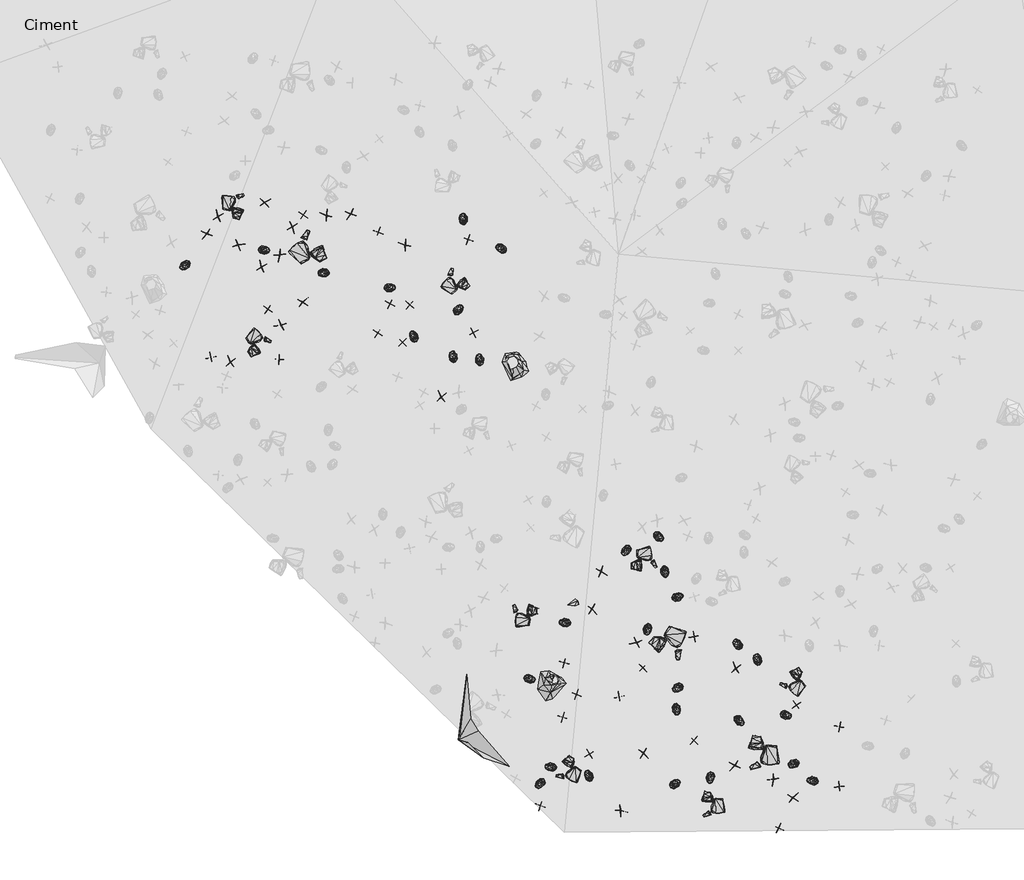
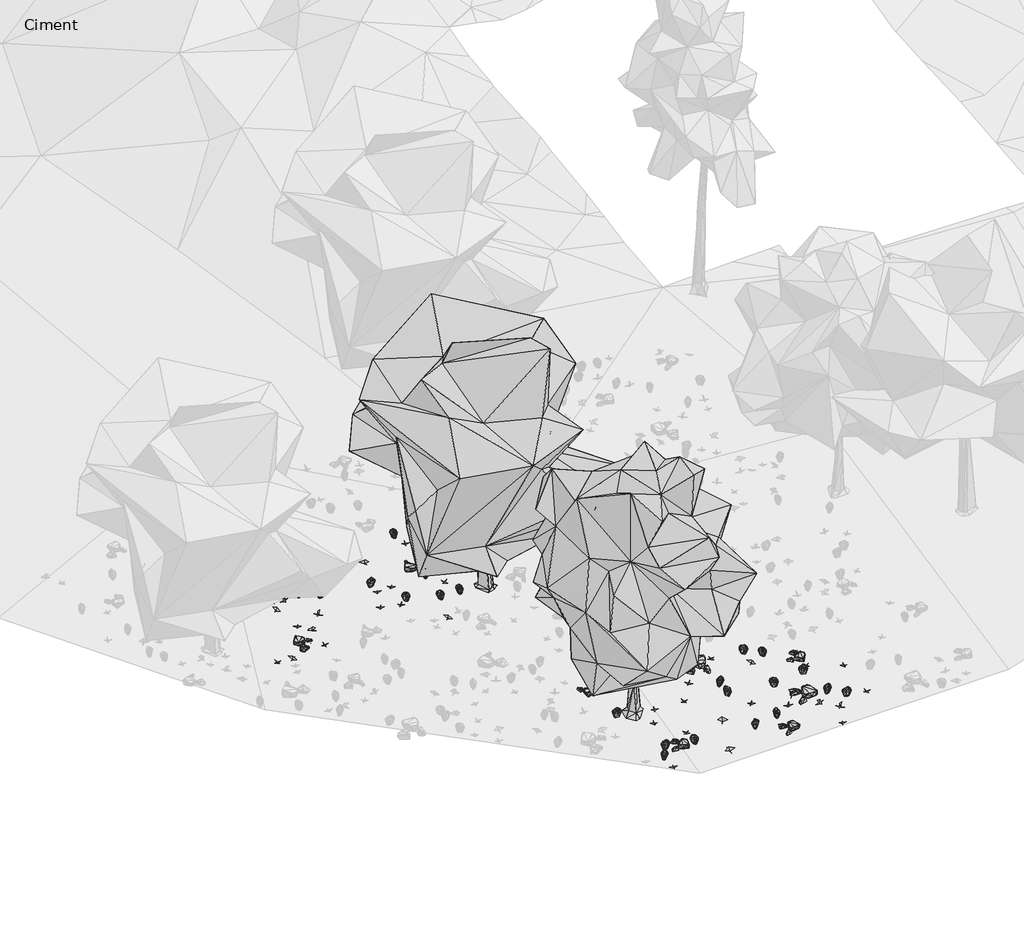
# One storey, part 2 of 30: 90 geographic elements.
"""IFC4 building model written with IfcOpenShell, lengths in millimetres."""

from ifc_helpers import new_model, si_unit, origin, place, context, project, spatial, transform, mapped, element, save
from components import enscape_assetdefinition_bush_025_fern_enscape_5718bf32, enscape_assetdefinition_bush_054_plant_09_version_2_enscape_7b546a12, enscape_assetdefinition_bush_062_plant_09_version_3_enscape_ccf8c8eb, enscape_assetdefinition_deciduous_tree_024_elm_enscape_8f9d8ef3, enscape_assetdefinition_deciduous_tree_029_elm_enscape_e4c49baf, enscape_assetdefinition_stone_013_group_enscape_516da325, enscape_assetdefinition_stone_013_group_enscape_db9b3e91

model = new_model("IFC4")

# Units and contexts
model_context = context("Model", 3, world=origin())
ifc_project = project(units=[si_unit("LENGTHUNIT", "METRE", prefix="MILLI")], contexts=[model_context])

# Site, building, storey
site = spatial("IfcSite", under=ifc_project)
building = spatial("IfcBuilding", under=site)
storey = spatial("IfcBuildingStorey", under=building, Name="Ciment", Elevation=-1500.0)

# Geographic elements
placement = place(None, origin())
enscape_assetdefinition_bush_025_fern_enscape_shape = enscape_assetdefinition_bush_025_fern_enscape_5718bf32(model_context)
element("IfcGeographicElement", 1, ObjectType="Enscape AssetDefinition - Bush 025 Fern : Enscape AssetDefinition - Bush 025 Fern", at=placement, inside=storey, context=model_context, shape_type="MappedRepresentation", body=[
    mapped(enscape_assetdefinition_bush_025_fern_enscape_shape, transform((-17254.2572021, -16587.2364044, -2199.5210648), x_axis=(-0.26475464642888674, 0.9643158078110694, 0.0), y_axis=(-0.9643158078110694, -0.26475464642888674, 0.0), z_axis=(0.0, 0.0, 1.0))),
])
element("IfcGeographicElement", 2, ObjectType="Enscape AssetDefinition - Bush 025 Fern : Enscape AssetDefinition - Bush 025 Fern", at=placement, inside=storey, context=model_context, shape_type="MappedRepresentation", body=[
    mapped(enscape_assetdefinition_bush_025_fern_enscape_shape, transform((-9023.6053467, -29849.8363495, -2913.7625694), x_axis=(-0.999545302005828, 0.030152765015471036, 0.0), y_axis=(-0.030152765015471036, -0.999545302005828, 0.0), z_axis=(0.0, 0.0, 1.0))),
])
element("IfcGeographicElement", 3, ObjectType="Enscape AssetDefinition - Bush 025 Fern : Enscape AssetDefinition - Bush 025 Fern", at=placement, inside=storey, context=model_context, shape_type="MappedRepresentation", body=[
    mapped(enscape_assetdefinition_bush_025_fern_enscape_shape, transform((-10318.7789917, -26983.3011627, -2702.8450966), x_axis=(-0.38013145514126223, 0.9249324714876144, 0.0), y_axis=(-0.9249324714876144, -0.38013145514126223, 0.0), z_axis=(0.0, 0.0, 1.0))),
])
element("IfcGeographicElement", 4, ObjectType="Enscape AssetDefinition - Bush 025 Fern : Enscape AssetDefinition - Bush 025 Fern", at=placement, inside=storey, context=model_context, shape_type="MappedRepresentation", body=[
    mapped(enscape_assetdefinition_bush_025_fern_enscape_shape, transform((-12916.5229797, -26286.737442, -2650.4135132), x_axis=(-0.09205174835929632, -0.995754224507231, 0.0), y_axis=(0.995754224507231, -0.09205174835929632, 0.0), z_axis=(0.0, 0.0, 1.0))),
])
element("IfcGeographicElement", 5, ObjectType="Enscape AssetDefinition - Bush 025 Fern : Enscape AssetDefinition - Bush 025 Fern", at=placement, inside=storey, context=model_context, shape_type="MappedRepresentation", body=[
    mapped(enscape_assetdefinition_bush_025_fern_enscape_shape, transform((-23831.1347961, -17692.5678253, -2731.0304642), x_axis=(-0.7361409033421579, -0.6768283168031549, 0.0), y_axis=(0.6768283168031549, -0.7361409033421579, 0.0), z_axis=(0.0, 0.0, 1.0))),
])
element("IfcGeographicElement", 6, ObjectType="Enscape AssetDefinition - Bush 025 Fern : Enscape AssetDefinition - Bush 025 Fern", at=placement, inside=storey, context=model_context, shape_type="MappedRepresentation", body=[
    mapped(enscape_assetdefinition_bush_025_fern_enscape_shape, transform((-15454.2007446, -29922.9335785, -2960.9966278), x_axis=(-0.5973056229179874, -0.8020137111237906, 0.0), y_axis=(0.8020137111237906, -0.5973056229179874, 0.0), z_axis=(0.0, 0.0, 1.0))),
])
element("IfcGeographicElement", 7, ObjectType="Enscape AssetDefinition - Bush 025 Fern : Enscape AssetDefinition - Bush 025 Fern", at=placement, inside=storey, context=model_context, shape_type="MappedRepresentation", body=[
    mapped(enscape_assetdefinition_bush_025_fern_enscape_shape, transform((-12504.2800903, -24931.810379, -2551.2485504), x_axis=(0.28386741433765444, -0.9588635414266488, 0.0), y_axis=(0.9588635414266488, 0.28386741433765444, 0.0), z_axis=(0.0, 0.0, 1.0))),
])
element("IfcGeographicElement", 8, ObjectType="Enscape AssetDefinition - Bush 025 Fern : Enscape AssetDefinition - Bush 025 Fern", at=placement, inside=storey, context=model_context, shape_type="MappedRepresentation", body=[
    mapped(enscape_assetdefinition_bush_025_fern_enscape_shape, transform((-18982.2845459, -18225.194931, -2415.6491756), x_axis=(0.9747056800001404, 0.22349236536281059, 0.0), y_axis=(-0.22349236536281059, 0.9747056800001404, 0.0), z_axis=(0.0, 0.0, 1.0))),
])
element("IfcGeographicElement", 9, ObjectType="Enscape AssetDefinition - Bush 025 Fern : Enscape AssetDefinition - Bush 025 Fern", at=placement, inside=storey, context=model_context, shape_type="MappedRepresentation", body=[
    mapped(enscape_assetdefinition_bush_025_fern_enscape_shape, transform((-12195.2285767, -25520.5020905, -2594.586134), x_axis=(0.9080771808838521, 0.4188028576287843, 0.0), y_axis=(-0.4188028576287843, 0.9080771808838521, 0.0), z_axis=(0.0, 0.0, 1.0))),
])
element("IfcGeographicElement", 10, ObjectType="Enscape AssetDefinition - Bush 025 Fern : Enscape AssetDefinition - Bush 025 Fern", at=placement, inside=storey, context=model_context, shape_type="MappedRepresentation", body=[
    mapped(enscape_assetdefinition_bush_025_fern_enscape_shape, transform((-13420.671463, -24424.4327545, -2513.5617256), x_axis=(-0.5348779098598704, -0.8449293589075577, 0.0), y_axis=(0.8449293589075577, -0.5348779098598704, 0.0), z_axis=(0.0, 0.0, 1.0))),
])
element("IfcGeographicElement", 11, ObjectType="Enscape AssetDefinition - Bush 025 Fern : Enscape AssetDefinition - Bush 025 Fern", at=placement, inside=storey, context=model_context, shape_type="MappedRepresentation", body=[
    mapped(enscape_assetdefinition_bush_025_fern_enscape_shape, transform((-12204.9617767, -27660.3755951, -2751.531601), x_axis=(-0.7883535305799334, -0.6152224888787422, 0.0), y_axis=(0.6152224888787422, -0.7883535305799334, 0.0), z_axis=(0.0, 0.0, 1.0))),
])
element("IfcGeographicElement", 12, ObjectType="Enscape AssetDefinition - Bush 025 Fern : Enscape AssetDefinition - Bush 025 Fern", at=placement, inside=storey, context=model_context, shape_type="MappedRepresentation", body=[
    mapped(enscape_assetdefinition_bush_025_fern_enscape_shape, transform((-16369.9760437, -17290.1821136, -2181.3101768), x_axis=(-0.921398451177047, 0.38861921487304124, 0.0), y_axis=(-0.38861921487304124, -0.921398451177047, 0.0), z_axis=(0.0, 0.0, 1.0))),
])
element("IfcGeographicElement", 13, ObjectType="Enscape AssetDefinition - Bush 025 Fern : Enscape AssetDefinition - Bush 025 Fern", at=placement, inside=storey, context=model_context, shape_type="MappedRepresentation", body=[
    mapped(enscape_assetdefinition_bush_025_fern_enscape_shape, transform((-14294.6529388, -29728.6701202, -2902.1525383), x_axis=(-0.5192533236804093, 0.8546203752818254, 0.0), y_axis=(-0.8546203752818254, -0.5192533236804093, 0.0), z_axis=(0.0, 0.0, 1.0))),
])
element("IfcGeographicElement", 14, ObjectType="Enscape AssetDefinition - Bush 025 Fern : Enscape AssetDefinition - Bush 025 Fern", at=placement, inside=storey, context=model_context, shape_type="MappedRepresentation", body=[
    mapped(enscape_assetdefinition_bush_025_fern_enscape_shape, transform((-12647.439003, -24102.7488708, -2490.3664589), x_axis=(0.8360758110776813, -0.5486139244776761, 0.0), y_axis=(0.5486139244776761, 0.8360758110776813, 0.0), z_axis=(0.0, 0.0, 1.0))),
])
element("IfcGeographicElement", 15, ObjectType="Enscape AssetDefinition - Bush 025 Fern : Enscape AssetDefinition - Bush 025 Fern", at=placement, inside=storey, context=model_context, shape_type="MappedRepresentation", body=[
    mapped(enscape_assetdefinition_bush_025_fern_enscape_shape, transform((-15201.4379501, -29526.6571045, -2917.8214073), x_axis=(-0.9993600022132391, -0.0357713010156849, 0.0), y_axis=(0.0357713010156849, -0.9993600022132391, 0.0), z_axis=(0.0, 0.0, 1.0))),
])
element("IfcGeographicElement", 16, ObjectType="Enscape AssetDefinition - Bush 025 Fern : Enscape AssetDefinition - Bush 025 Fern", at=placement, inside=storey, context=model_context, shape_type="MappedRepresentation", body=[
    mapped(enscape_assetdefinition_bush_025_fern_enscape_shape, transform((-17492.5937653, -19837.8238678, -2417.51194), x_axis=(-0.36291943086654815, 0.9318205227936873, 0.0), y_axis=(-0.9318205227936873, -0.36291943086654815, 0.0), z_axis=(0.0, 0.0, 1.0))),
])
element("IfcGeographicElement", 17, ObjectType="Enscape AssetDefinition - Bush 025 Fern : Enscape AssetDefinition - Bush 025 Fern", at=placement, inside=storey, context=model_context, shape_type="MappedRepresentation", body=[
    mapped(enscape_assetdefinition_bush_025_fern_enscape_shape, transform((-14865.7569885, -26121.4809418, -2667.1943665), x_axis=(-0.9997912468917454, -0.020431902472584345, 0.0), y_axis=(0.020431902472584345, -0.9997912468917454, 0.0), z_axis=(0.0, 0.0, 1.0))),
])
element("IfcGeographicElement", 18, ObjectType="Enscape AssetDefinition - Bush 025 Fern : Enscape AssetDefinition - Bush 025 Fern", at=placement, inside=storey, context=model_context, shape_type="MappedRepresentation", body=[
    mapped(enscape_assetdefinition_bush_025_fern_enscape_shape, transform((-20556.5986633, -17865.5071259, -2501.5313625), x_axis=(-0.9874908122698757, -0.15767655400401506, 0.0), y_axis=(0.15767655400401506, -0.9874908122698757, 0.0), z_axis=(0.0, 0.0, 1.0))),
])
element("IfcGeographicElement", 19, ObjectType="Enscape AssetDefinition - Bush 025 Fern : Enscape AssetDefinition - Bush 025 Fern", at=placement, inside=storey, context=model_context, shape_type="MappedRepresentation", body=[
    mapped(enscape_assetdefinition_bush_025_fern_enscape_shape, transform((-16866.8746948, -19912.103653, -2381.4809322), x_axis=(-0.218395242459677, 0.9758603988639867, 0.0), y_axis=(-0.9758603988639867, -0.218395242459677, 0.0), z_axis=(0.0, 0.0, 1.0))),
])
element("IfcGeographicElement", 20, ObjectType="Enscape AssetDefinition - Bush 025 Fern : Enscape AssetDefinition - Bush 025 Fern", at=placement, inside=storey, context=model_context, shape_type="MappedRepresentation", body=[
    mapped(enscape_assetdefinition_bush_025_fern_enscape_shape, transform((-9475.2006531, -29453.8459778, -2884.4847679), x_axis=(-0.8869395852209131, -0.4618854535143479, 0.0), y_axis=(0.4618854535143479, -0.8869395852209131, 0.0), z_axis=(0.0, 0.0, 1.0))),
])
element("IfcGeographicElement", 21, ObjectType="Enscape AssetDefinition - Bush 025 Fern : Enscape AssetDefinition - Bush 025 Fern", at=placement, inside=storey, context=model_context, shape_type="MappedRepresentation", body=[
    mapped(enscape_assetdefinition_bush_025_fern_enscape_shape, transform((-17363.6455536, -18733.499527, -2335.6513977), x_axis=(0.5823553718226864, 0.8129343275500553, 0.0), y_axis=(-0.8129343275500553, 0.5823553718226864, 0.0), z_axis=(0.0, 0.0, 1.0))),
])
element("IfcGeographicElement", 22, ObjectType="Enscape AssetDefinition - Bush 025 Fern : Enscape AssetDefinition - Bush 025 Fern", at=placement, inside=storey, context=model_context, shape_type="MappedRepresentation", body=[
    mapped(enscape_assetdefinition_bush_025_fern_enscape_shape, transform((-9641.7789459, -28310.9474182, -2800.5719185), x_axis=(0.972863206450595, -0.23138103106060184, 0.0), y_axis=(0.23138103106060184, 0.972863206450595, 0.0), z_axis=(0.0, 0.0, 1.0))),
])
element("IfcGeographicElement", 23, ObjectType="Enscape AssetDefinition - Bush 025 Fern : Enscape AssetDefinition - Bush 025 Fern", at=placement, inside=storey, context=model_context, shape_type="MappedRepresentation", body=[
    mapped(enscape_assetdefinition_bush_025_fern_enscape_shape, transform((-11434.7991943, -29787.3897552, -2907.9368114), x_axis=(-0.09337616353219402, -0.99563090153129, 0.0), y_axis=(0.99563090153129, -0.09337616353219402, 0.0), z_axis=(0.0, 0.0, 1.0))),
])
element("IfcGeographicElement", 24, ObjectType="Enscape AssetDefinition - Bush 025 Fern : Enscape AssetDefinition - Bush 025 Fern", at=placement, inside=storey, context=model_context, shape_type="MappedRepresentation", body=[
    mapped(enscape_assetdefinition_bush_025_fern_enscape_shape, transform((-10787.2447968, -26626.8634796, -2676.4602661), x_axis=(-0.7263474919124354, 0.687327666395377, 0.0), y_axis=(-0.687327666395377, -0.7263474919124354, 0.0), z_axis=(0.0, 0.0, 1.0))),
])
element("IfcGeographicElement", 25, ObjectType="Enscape AssetDefinition - Bush 025 Fern : Enscape AssetDefinition - Bush 025 Fern", at=placement, inside=storey, context=model_context, shape_type="MappedRepresentation", body=[
    mapped(enscape_assetdefinition_bush_025_fern_enscape_shape, transform((-12232.9063416, -28176.3019562, -2789.3579006), x_axis=(0.3317727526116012, -0.943359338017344, 0.0), y_axis=(0.943359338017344, 0.3317727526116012, 0.0), z_axis=(0.0, 0.0, 1.0))),
])
element("IfcGeographicElement", 26, ObjectType="Enscape AssetDefinition - Bush 025 Fern : Enscape AssetDefinition - Bush 025 Fern", at=placement, inside=storey, context=model_context, shape_type="MappedRepresentation", body=[
    mapped(enscape_assetdefinition_bush_025_fern_enscape_shape, transform((-21951.997757, -17336.3323212, -2565.0415421), x_axis=(0.9999618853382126, 0.008730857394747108, 0.0), y_axis=(-0.008730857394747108, 0.9999618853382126, 0.0), z_axis=(0.0, 0.0, 1.0))),
])
element("IfcGeographicElement", 27, ObjectType="Enscape AssetDefinition - Bush 025 Fern : Enscape AssetDefinition - Bush 025 Fern", at=placement, inside=storey, context=model_context, shape_type="MappedRepresentation", body=[
    mapped(enscape_assetdefinition_bush_025_fern_enscape_shape, transform((-18427.6409149, -19360.3572845, -2446.7511177), x_axis=(-0.5026725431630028, 0.8644769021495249, 0.0), y_axis=(-0.8644769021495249, -0.5026725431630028, 0.0), z_axis=(0.0, 0.0, 1.0))),
])
element("IfcGeographicElement", 28, ObjectType="Enscape AssetDefinition - Bush 025 Fern : Enscape AssetDefinition - Bush 025 Fern", at=placement, inside=storey, context=model_context, shape_type="MappedRepresentation", body=[
    mapped(enscape_assetdefinition_bush_025_fern_enscape_shape, transform((-15686.7284775, -27456.2702179, -2810.6293678), x_axis=(0.9915332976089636, -0.12985268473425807, 0.0), y_axis=(0.12985268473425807, 0.9915332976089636, 0.0), z_axis=(0.0, 0.0, 1.0))),
])
element("IfcGeographicElement", 29, ObjectType="Enscape AssetDefinition - Bush 025 Fern : Enscape AssetDefinition - Bush 025 Fern", at=placement, inside=storey, context=model_context, shape_type="MappedRepresentation", body=[
    mapped(enscape_assetdefinition_bush_025_fern_enscape_shape, transform((-10749.5098114, -28444.5114136, -2809.7963333), x_axis=(0.787611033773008, -0.6161727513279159, 0.0), y_axis=(0.6161727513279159, 0.787611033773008, 0.0), z_axis=(0.0, 0.0, 1.0))),
])
element("IfcGeographicElement", 30, ObjectType="Enscape AssetDefinition - Bush 025 Fern : Enscape AssetDefinition - Bush 025 Fern", at=placement, inside=storey, context=model_context, shape_type="MappedRepresentation", body=[
    mapped(enscape_assetdefinition_bush_025_fern_enscape_shape, transform((-12255.197525, -29929.3861389, -2917.9282188), x_axis=(0.7482166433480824, 0.6634544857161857, 0.0), y_axis=(-0.6634544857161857, 0.7482166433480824, 0.0), z_axis=(0.0, 0.0, 1.0))),
])
enscape_assetdefinition_bush_054_plant_09_version_2_enscape_shape = enscape_assetdefinition_bush_054_plant_09_version_2_enscape_7b546a12(model_context)
element("IfcGeographicElement", 31, ObjectType="Enscape AssetDefinition - Bush 054 Plant 09, Version 2 : Enscape AssetDefinition - Bush 054 Plant 09, Version 2", at=placement, inside=storey, context=model_context, shape_type="MappedRepresentation", body=[
    mapped(enscape_assetdefinition_bush_054_plant_09_version_2_enscape_shape, transform((-9406.4655304, -28069.2882538, -2782.9687595), x_axis=(0.6092177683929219, -0.7930029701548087, 0.0), y_axis=(0.7930029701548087, 0.6092177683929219, 0.0), z_axis=(0.0, 0.0, 1.0))),
])
element("IfcGeographicElement", 32, ObjectType="Enscape AssetDefinition - Bush 054 Plant 09, Version 2 : Enscape AssetDefinition - Bush 054 Plant 09, Version 2", at=placement, inside=storey, context=model_context, shape_type="MappedRepresentation", body=[
    mapped(enscape_assetdefinition_bush_054_plant_09_version_2_enscape_shape, transform((-11812.3931885, -26459.444046, -2663.6509895), x_axis=(0.9711329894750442, 0.23853871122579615, 0.0), y_axis=(-0.23853871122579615, 0.9711329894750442, 0.0), z_axis=(0.0, 0.0, 1.0))),
])
element("IfcGeographicElement", 33, ObjectType="Enscape AssetDefinition - Bush 054 Plant 09, Version 2 : Enscape AssetDefinition - Bush 054 Plant 09, Version 2", at=placement, inside=storey, context=model_context, shape_type="MappedRepresentation", body=[
    mapped(enscape_assetdefinition_bush_054_plant_09_version_2_enscape_shape, transform((-18683.2847595, -19509.1152191, -2473.4966755), x_axis=(-0.7356920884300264, 0.6773161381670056, 0.0), y_axis=(-0.6773161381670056, -0.7356920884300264, 0.0), z_axis=(0.0, 0.0, 1.0))),
])
element("IfcGeographicElement", 34, ObjectType="Enscape AssetDefinition - Bush 054 Plant 09, Version 2 : Enscape AssetDefinition - Bush 054 Plant 09, Version 2", at=placement, inside=storey, context=model_context, shape_type="MappedRepresentation", body=[
    mapped(enscape_assetdefinition_bush_054_plant_09_version_2_enscape_shape, transform((-14582.5214386, -27812.1891022, -2762.1405125), x_axis=(-0.9581727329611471, 0.28619052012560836, 0.0), y_axis=(-0.28619052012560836, -0.9581727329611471, 0.0), z_axis=(0.0, 0.0, 1.0))),
])
element("IfcGeographicElement", 35, ObjectType="Enscape AssetDefinition - Bush 054 Plant 09, Version 2 : Enscape AssetDefinition - Bush 054 Plant 09, Version 2", at=placement, inside=storey, context=model_context, shape_type="MappedRepresentation", body=[
    mapped(enscape_assetdefinition_bush_054_plant_09_version_2_enscape_shape, transform((-17135.4484558, -17079.3609619, -2220.9146023), x_axis=(-0.9611187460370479, 0.2761353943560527, 0.0), y_axis=(-0.2761353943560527, -0.9611187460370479, 0.0), z_axis=(0.0, 0.0, 1.0))),
])
element("IfcGeographicElement", 36, ObjectType="Enscape AssetDefinition - Bush 054 Plant 09, Version 2 : Enscape AssetDefinition - Bush 054 Plant 09, Version 2", at=placement, inside=storey, context=model_context, shape_type="MappedRepresentation", body=[
    mapped(enscape_assetdefinition_bush_054_plant_09_version_2_enscape_shape, transform((-19271.0151672, -19293.3292389, -2499.3872643), x_axis=(0.4932681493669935, 0.8698773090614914, 0.0), y_axis=(-0.8698773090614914, 0.4932681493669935, 0.0), z_axis=(0.0, 0.0, 1.0))),
])
element("IfcGeographicElement", 37, ObjectType="Enscape AssetDefinition - Bush 054 Plant 09, Version 2 : Enscape AssetDefinition - Bush 054 Plant 09, Version 2", at=placement, inside=storey, context=model_context, shape_type="MappedRepresentation", body=[
    mapped(enscape_assetdefinition_bush_054_plant_09_version_2_enscape_shape, transform((-11813.7760162, -28902.6165009, -2842.8461552), x_axis=(-0.7703190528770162, 0.6376586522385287, 0.0), y_axis=(-0.6376586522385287, -0.7703190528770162, 0.0), z_axis=(0.0, 0.0, 1.0))),
])
element("IfcGeographicElement", 38, ObjectType="Enscape AssetDefinition - Bush 054 Plant 09, Version 2 : Enscape AssetDefinition - Bush 054 Plant 09, Version 2", at=placement, inside=storey, context=model_context, shape_type="MappedRepresentation", body=[
    mapped(enscape_assetdefinition_bush_054_plant_09_version_2_enscape_shape, transform((-21592.540741, -19908.7047577, -2694.7183609), x_axis=(-0.9999907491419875, 0.004301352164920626, 0.0), y_axis=(-0.004301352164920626, -0.9999907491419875, 0.0), z_axis=(0.0, 0.0, 1.0))),
])
element("IfcGeographicElement", 39, ObjectType="Enscape AssetDefinition - Bush 054 Plant 09, Version 2 : Enscape AssetDefinition - Bush 054 Plant 09, Version 2", at=placement, inside=storey, context=model_context, shape_type="MappedRepresentation", body=[
    mapped(enscape_assetdefinition_bush_054_plant_09_version_2_enscape_shape, transform((-9811.8209839, -30972.5704193, -2995.7027435), x_axis=(-0.9357834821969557, 0.35257520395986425, 0.0), y_axis=(-0.35257520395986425, -0.9357834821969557, 0.0), z_axis=(0.0, 0.0, 1.0))),
])
element("IfcGeographicElement", 40, ObjectType="Enscape AssetDefinition - Bush 054 Plant 09, Version 2 : Enscape AssetDefinition - Bush 054 Plant 09, Version 2", at=placement, inside=storey, context=model_context, shape_type="MappedRepresentation", body=[
    mapped(enscape_assetdefinition_bush_054_plant_09_version_2_enscape_shape, transform((-21860.3210449, -18733.2820892, -2642.5299644), x_axis=(0.5198726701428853, 0.8542437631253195, 0.0), y_axis=(-0.8542437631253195, 0.5198726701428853, 0.0), z_axis=(0.0, 0.0, 1.0))),
])
element("IfcGeographicElement", 41, ObjectType="Enscape AssetDefinition - Bush 054 Plant 09, Version 2 : Enscape AssetDefinition - Bush 054 Plant 09, Version 2", at=placement, inside=storey, context=model_context, shape_type="MappedRepresentation", body=[
    mapped(enscape_assetdefinition_bush_054_plant_09_version_2_enscape_shape, transform((-18516.7541504, -18630.3577423, -2408.1659317), x_axis=(0.6099506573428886, 0.792439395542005, 0.0), y_axis=(-0.792439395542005, 0.6099506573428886, 0.0), z_axis=(0.0, 0.0, 1.0))),
])
element("IfcGeographicElement", 42, ObjectType="Enscape AssetDefinition - Bush 054 Plant 09, Version 2 : Enscape AssetDefinition - Bush 054 Plant 09, Version 2", at=placement, inside=storey, context=model_context, shape_type="MappedRepresentation", body=[
    mapped(enscape_assetdefinition_bush_054_plant_09_version_2_enscape_shape, transform((-15434.9346161, -30446.3043213, -2994.8720932), x_axis=(0.2825929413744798, 0.9592399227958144, 0.0), y_axis=(-0.9592399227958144, 0.2825929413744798, 0.0), z_axis=(0.0, 0.0, 1.0))),
])
element("IfcGeographicElement", 43, ObjectType="Enscape AssetDefinition - Bush 054 Plant 09, Version 2 : Enscape AssetDefinition - Bush 054 Plant 09, Version 2", at=placement, inside=storey, context=model_context, shape_type="MappedRepresentation", body=[
    mapped(enscape_assetdefinition_bush_054_plant_09_version_2_enscape_shape, transform((-23215.2309418, -19863.7943268, -2802.772522), x_axis=(0.2561941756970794, -0.9666253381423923, 0.0), y_axis=(0.9666253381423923, 0.2561941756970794, 0.0), z_axis=(0.0, 0.0, 1.0))),
])
element("IfcGeographicElement", 44, ObjectType="Enscape AssetDefinition - Bush 054 Plant 09, Version 2 : Enscape AssetDefinition - Bush 054 Plant 09, Version 2", at=placement, inside=storey, context=model_context, shape_type="MappedRepresentation", body=[
    mapped(enscape_assetdefinition_bush_054_plant_09_version_2_enscape_shape, transform((-8395.1778412, -29989.5877838, -2924.3369102), x_axis=(0.15913677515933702, -0.9872565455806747, 0.0), y_axis=(0.9872565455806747, 0.15913677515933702, 0.0), z_axis=(0.0, 0.0, 1.0))),
])
element("IfcGeographicElement", 45, ObjectType="Enscape AssetDefinition - Bush 054 Plant 09, Version 2 : Enscape AssetDefinition - Bush 054 Plant 09, Version 2", at=placement, inside=storey, context=model_context, shape_type="MappedRepresentation", body=[
    mapped(enscape_assetdefinition_bush_054_plant_09_version_2_enscape_shape, transform((-21030.7579041, -16498.6629486, -2451.9519806), x_axis=(-0.5136208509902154, -0.8580172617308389, 0.0), y_axis=(0.8580172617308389, -0.5136208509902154, 0.0), z_axis=(0.0, 0.0, 1.0))),
])
element("IfcGeographicElement", 46, ObjectType="Enscape AssetDefinition - Bush 054 Plant 09, Version 2 : Enscape AssetDefinition - Bush 054 Plant 09, Version 2", at=placement, inside=storey, context=model_context, shape_type="MappedRepresentation", body=[
    mapped(enscape_assetdefinition_bush_054_plant_09_version_2_enscape_shape, transform((-14872.6110458, -27075.4642487, -2731.6944599), x_axis=(0.2139232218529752, 0.9768504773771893, 0.0), y_axis=(-0.9768504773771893, 0.2139232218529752, 0.0), z_axis=(0.0, 0.0, 1.0))),
])
element("IfcGeographicElement", 47, ObjectType="Enscape AssetDefinition - Bush 054 Plant 09, Version 2 : Enscape AssetDefinition - Bush 054 Plant 09, Version 2", at=placement, inside=storey, context=model_context, shape_type="MappedRepresentation", body=[
    mapped(enscape_assetdefinition_bush_054_plant_09_version_2_enscape_shape, transform((-14914.7968292, -28363.5196686, -2820.9385872), x_axis=(0.9754383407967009, -0.22027265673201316, 0.0), y_axis=(0.22027265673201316, 0.9754383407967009, 0.0), z_axis=(0.0, 0.0, 1.0))),
])
element("IfcGeographicElement", 48, ObjectType="Enscape AssetDefinition - Bush 054 Plant 09, Version 2 : Enscape AssetDefinition - Bush 054 Plant 09, Version 2", at=placement, inside=storey, context=model_context, shape_type="MappedRepresentation", body=[
    mapped(enscape_assetdefinition_bush_054_plant_09_version_2_enscape_shape, transform((-13017.6811218, -27183.1264496, -2716.1073685), x_axis=(-0.6850897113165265, -0.7284587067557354, 0.0), y_axis=(0.7284587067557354, -0.6850897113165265, 0.0), z_axis=(0.0, 0.0, 1.0))),
])
element("IfcGeographicElement", 49, ObjectType="Enscape AssetDefinition - Bush 054 Plant 09, Version 2 : Enscape AssetDefinition - Bush 054 Plant 09, Version 2", at=placement, inside=storey, context=model_context, shape_type="MappedRepresentation", body=[
    mapped(enscape_assetdefinition_bush_054_plant_09_version_2_enscape_shape, transform((-17019.2642212, -19276.0124207, -2348.764658), x_axis=(-0.8587391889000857, -0.5124129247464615, 0.0), y_axis=(0.5124129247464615, -0.8587391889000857, 0.0), z_axis=(0.0, 0.0, 1.0))),
])
element("IfcGeographicElement", 50, ObjectType="Enscape AssetDefinition - Bush 054 Plant 09, Version 2 : Enscape AssetDefinition - Bush 054 Plant 09, Version 2", at=placement, inside=storey, context=model_context, shape_type="MappedRepresentation", body=[
    mapped(enscape_assetdefinition_bush_054_plant_09_version_2_enscape_shape, transform((-14280.3554535, -29231.3556671, -2865.6845093), x_axis=(0.8406182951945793, 0.5416279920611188, 0.0), y_axis=(-0.5416279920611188, 0.8406182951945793, 0.0), z_axis=(0.0, 0.0, 1.0))),
])
element("IfcGeographicElement", 51, ObjectType="Enscape AssetDefinition - Bush 054 Plant 09, Version 2 : Enscape AssetDefinition - Bush 054 Plant 09, Version 2", at=placement, inside=storey, context=model_context, shape_type="MappedRepresentation", body=[
    mapped(enscape_assetdefinition_bush_054_plant_09_version_2_enscape_shape, transform((-19263.1015778, -16905.2238464, -2355.6847572), x_axis=(-0.2616031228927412, -0.9651755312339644, 0.0), y_axis=(0.9651755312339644, -0.2616031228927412, 0.0), z_axis=(0.0, 0.0, 1.0))),
])
element("IfcGeographicElement", 52, ObjectType="Enscape AssetDefinition - Bush 054 Plant 09, Version 2 : Enscape AssetDefinition - Bush 054 Plant 09, Version 2", at=placement, inside=storey, context=model_context, shape_type="MappedRepresentation", body=[
    mapped(enscape_assetdefinition_bush_054_plant_09_version_2_enscape_shape, transform((-8384.7999573, -28587.6979828, -2821.5198517), x_axis=(0.994523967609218, -0.10450874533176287, 0.0), y_axis=(0.10450874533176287, 0.994523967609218, 0.0), z_axis=(0.0, 0.0, 1.0))),
])
element("IfcGeographicElement", 53, ObjectType="Enscape AssetDefinition - Bush 054 Plant 09, Version 2 : Enscape AssetDefinition - Bush 054 Plant 09, Version 2", at=placement, inside=storey, context=model_context, shape_type="MappedRepresentation", body=[
    mapped(enscape_assetdefinition_bush_054_plant_09_version_2_enscape_shape, transform((-18982.2311401, -18602.602005, -2438.270092), x_axis=(0.4128965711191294, 0.9107779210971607, 0.0), y_axis=(-0.9107779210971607, 0.4128965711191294, 0.0), z_axis=(0.0, 0.0, 1.0))),
])
element("IfcGeographicElement", 54, ObjectType="Enscape AssetDefinition - Bush 054 Plant 09, Version 2 : Enscape AssetDefinition - Bush 054 Plant 09, Version 2", at=placement, inside=storey, context=model_context, shape_type="MappedRepresentation", body=[
    mapped(enscape_assetdefinition_bush_054_plant_09_version_2_enscape_shape, transform((-13585.8678818, -27872.0417023, -2766.3431168), x_axis=(0.24562848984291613, -0.969364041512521, 0.0), y_axis=(0.969364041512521, 0.24562848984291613, 0.0), z_axis=(0.0, 0.0, 1.0))),
])
enscape_assetdefinition_bush_062_plant_09_version_3_enscape_shape = enscape_assetdefinition_bush_062_plant_09_version_3_enscape_ccf8c8eb(model_context)
element("IfcGeographicElement", 55, ObjectType="Enscape AssetDefinition - Bush 062 Plant 09, Version 3 : Enscape AssetDefinition - Bush 062 Plant 09, Version 3", at=placement, inside=storey, context=model_context, shape_type="MappedRepresentation", body=[
    mapped(enscape_assetdefinition_bush_062_plant_09_version_3_enscape_shape, transform((-22556.427002, -17208.5018158, -2598.6304283), x_axis=(0.4839459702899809, -0.8750978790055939, 0.0), y_axis=(0.8750978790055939, 0.4839459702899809, 0.0), z_axis=(0.0, 0.0, 1.0))),
])
element("IfcGeographicElement", 56, ObjectType="Enscape AssetDefinition - Bush 062 Plant 09, Version 3 : Enscape AssetDefinition - Bush 062 Plant 09, Version 3", at=placement, inside=storey, context=model_context, shape_type="MappedRepresentation", body=[
    mapped(enscape_assetdefinition_bush_062_plant_09_version_3_enscape_shape, transform((-21569.4980621, -19105.05867, -2644.9685097), x_axis=(-0.5002634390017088, 0.8658732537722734, 0.0), y_axis=(-0.8658732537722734, -0.5002634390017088, 0.0), z_axis=(0.0, 0.0, 1.0))),
])
element("IfcGeographicElement", 57, ObjectType="Enscape AssetDefinition - Bush 062 Plant 09, Version 3 : Enscape AssetDefinition - Bush 062 Plant 09, Version 3", at=placement, inside=storey, context=model_context, shape_type="MappedRepresentation", body=[
    mapped(enscape_assetdefinition_bush_062_plant_09_version_3_enscape_shape, transform((-21933.0062866, -16199.4762421, -2495.5935478), x_axis=(0.7641411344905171, -0.6450490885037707, 0.0), y_axis=(0.6450490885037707, 0.7641411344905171, 0.0), z_axis=(0.0, 0.0, 1.0))),
])
element("IfcGeographicElement", 58, ObjectType="Enscape AssetDefinition - Bush 062 Plant 09, Version 3 : Enscape AssetDefinition - Bush 062 Plant 09, Version 3", at=placement, inside=storey, context=model_context, shape_type="MappedRepresentation", body=[
    mapped(enscape_assetdefinition_bush_062_plant_09_version_3_enscape_shape, transform((-18641.1514282, -17214.9677277, -2331.8059444), x_axis=(-0.04262280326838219, 0.9990912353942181, 0.0), y_axis=(-0.9990912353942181, -0.04262280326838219, 0.0), z_axis=(0.0, 0.0, 1.0))),
])
element("IfcGeographicElement", 59, ObjectType="Enscape AssetDefinition - Bush 062 Plant 09, Version 3 : Enscape AssetDefinition - Bush 062 Plant 09, Version 3", at=placement, inside=storey, context=model_context, shape_type="MappedRepresentation", body=[
    mapped(enscape_assetdefinition_bush_062_plant_09_version_3_enscape_shape, transform((-23043.8938141, -16527.6412964, -2599.5392799), x_axis=(0.7906583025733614, 0.6122576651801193, 0.0), y_axis=(-0.6122576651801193, 0.7906583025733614, 0.0), z_axis=(0.0, 0.0, 1.0))),
])
element("IfcGeographicElement", 60, ObjectType="Enscape AssetDefinition - Bush 062 Plant 09, Version 3 : Enscape AssetDefinition - Bush 062 Plant 09, Version 3", at=placement, inside=storey, context=model_context, shape_type="MappedRepresentation", body=[
    mapped(enscape_assetdefinition_bush_062_plant_09_version_3_enscape_shape, transform((-13531.3177109, -30561.1820221, -2963.6075497), x_axis=(0.19162130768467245, -0.9814689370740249, 0.0), y_axis=(0.9814689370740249, 0.19162130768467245, 0.0), z_axis=(0.0, 0.0, 1.0))),
])
element("IfcGeographicElement", 61, ObjectType="Enscape AssetDefinition - Bush 062 Plant 09, Version 3 : Enscape AssetDefinition - Bush 062 Plant 09, Version 3", at=placement, inside=storey, context=model_context, shape_type="MappedRepresentation", body=[
    mapped(enscape_assetdefinition_bush_062_plant_09_version_3_enscape_shape, transform((-21584.6233368, -17457.2200775, -2547.2164154), x_axis=(-0.9853498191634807, -0.17054540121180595, 0.0), y_axis=(0.17054540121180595, -0.9853498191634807, 0.0), z_axis=(0.0, 0.0, 1.0))),
])
element("IfcGeographicElement", 62, ObjectType="Enscape AssetDefinition - Bush 062 Plant 09, Version 3 : Enscape AssetDefinition - Bush 062 Plant 09, Version 3", at=placement, inside=storey, context=model_context, shape_type="MappedRepresentation", body=[
    mapped(enscape_assetdefinition_bush_062_plant_09_version_3_enscape_shape, transform((-19915.2450562, -16489.5610809, -2375.2739429), x_axis=(-0.9784105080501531, 0.20667094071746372, 0.0), y_axis=(-0.20667094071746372, -0.9784105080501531, 0.0), z_axis=(0.0, 0.0, 1.0))),
])
element("IfcGeographicElement", 63, ObjectType="Enscape AssetDefinition - Bush 062 Plant 09, Version 3 : Enscape AssetDefinition - Bush 062 Plant 09, Version 3", at=placement, inside=storey, context=model_context, shape_type="MappedRepresentation", body=[
    mapped(enscape_assetdefinition_bush_062_plant_09_version_3_enscape_shape, transform((-10861.0048294, -29503.2691956, -2887.3934746), x_axis=(-0.9347892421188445, 0.35520286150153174, 0.0), y_axis=(-0.35520286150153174, -0.9347892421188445, 0.0), z_axis=(0.0, 0.0, 1.0))),
])
element("IfcGeographicElement", 64, ObjectType="Enscape AssetDefinition - Bush 062 Plant 09, Version 3 : Enscape AssetDefinition - Bush 062 Plant 09, Version 3", at=placement, inside=storey, context=model_context, shape_type="MappedRepresentation", body=[
    mapped(enscape_assetdefinition_bush_062_plant_09_version_3_enscape_shape, transform((-21034.6889496, -18550.5924225, -2575.2296448), x_axis=(0.9014279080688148, -0.43292923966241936, 0.0), y_axis=(0.43292923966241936, 0.9014279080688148, 0.0), z_axis=(0.0, 0.0, 1.0))),
])
element("IfcGeographicElement", 65, ObjectType="Enscape AssetDefinition - Bush 062 Plant 09, Version 3 : Enscape AssetDefinition - Bush 062 Plant 09, Version 3", at=placement, inside=storey, context=model_context, shape_type="MappedRepresentation", body=[
    mapped(enscape_assetdefinition_bush_062_plant_09_version_3_enscape_shape, transform((-17779.7622681, -20791.3017273, -2500.3523827), x_axis=(0.6645416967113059, 0.7472511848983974, 0.0), y_axis=(-0.7472511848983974, 0.6645416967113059, 0.0), z_axis=(0.0, 0.0, 1.0))),
])
element("IfcGeographicElement", 66, ObjectType="Enscape AssetDefinition - Bush 062 Plant 09, Version 3 : Enscape AssetDefinition - Bush 062 Plant 09, Version 3", at=placement, inside=storey, context=model_context, shape_type="MappedRepresentation", body=[
    mapped(enscape_assetdefinition_bush_062_plant_09_version_3_enscape_shape, transform((-10833.4007263, -27193.6798096, -2718.0094719), x_axis=(0.6936789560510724, 0.7202843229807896, 0.0), y_axis=(-0.7202843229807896, 0.6936789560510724, 0.0), z_axis=(0.0, 0.0, 1.0))),
])
element("IfcGeographicElement", 67, ObjectType="Enscape AssetDefinition - Bush 062 Plant 09, Version 3 : Enscape AssetDefinition - Bush 062 Plant 09, Version 3", at=placement, inside=storey, context=model_context, shape_type="MappedRepresentation", body=[
    mapped(enscape_assetdefinition_bush_062_plant_09_version_3_enscape_shape, transform((-9472.1813202, -30247.0302582, -2942.6629543), x_axis=(0.8987249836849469, -0.4385127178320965, 0.0), y_axis=(0.4385127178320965, 0.8987249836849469, 0.0), z_axis=(0.0, 0.0, 1.0))),
])
element("IfcGeographicElement", 68, ObjectType="Enscape AssetDefinition - Bush 062 Plant 09, Version 3 : Enscape AssetDefinition - Bush 062 Plant 09, Version 3", at=placement, inside=storey, context=model_context, shape_type="MappedRepresentation", body=[
    mapped(enscape_assetdefinition_bush_062_plant_09_version_3_enscape_shape, transform((-13183.0186844, -26596.7884064, -2673.017025), x_axis=(-0.5453185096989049, 0.8382289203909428, 0.0), y_axis=(-0.8382289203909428, -0.5453185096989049, 0.0), z_axis=(0.0, 0.0, 1.0))),
])
element("IfcGeographicElement", 69, ObjectType="Enscape AssetDefinition - Bush 062 Plant 09, Version 3 : Enscape AssetDefinition - Bush 062 Plant 09, Version 3", at=placement, inside=storey, context=model_context, shape_type="MappedRepresentation", body=[
    mapped(enscape_assetdefinition_bush_062_plant_09_version_3_enscape_shape, transform((-22753.408432, -19961.9693756, -2777.1391869), x_axis=(0.696470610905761, 0.7175853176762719, 0.0), y_axis=(-0.7175853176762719, 0.696470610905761, 0.0), z_axis=(0.0, 0.0, 1.0))),
])
element("IfcGeographicElement", 70, ObjectType="Enscape AssetDefinition - Bush 062 Plant 09, Version 3 : Enscape AssetDefinition - Bush 062 Plant 09, Version 3", at=placement, inside=storey, context=model_context, shape_type="MappedRepresentation", body=[
    mapped(enscape_assetdefinition_bush_062_plant_09_version_3_enscape_shape, transform((-13992.1340942, -24920.0515747, -2549.6182442), x_axis=(-0.22098160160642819, -0.975277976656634, 0.0), y_axis=(0.975277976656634, -0.22098160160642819, 0.0), z_axis=(0.0, 0.0, 1.0))),
])
element("IfcGeographicElement", 71, ObjectType="Enscape AssetDefinition - Bush 062 Plant 09, Version 3 : Enscape AssetDefinition - Bush 062 Plant 09, Version 3", at=placement, inside=storey, context=model_context, shape_type="MappedRepresentation", body=[
    mapped(enscape_assetdefinition_bush_062_plant_09_version_3_enscape_shape, transform((-14211.6527557, -25809.7476959, -2614.7594452), x_axis=(-0.41025578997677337, -0.9119704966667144, 0.0), y_axis=(0.9119704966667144, -0.41025578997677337, 0.0), z_axis=(0.0, 0.0, 1.0))),
])
element("IfcGeographicElement", 72, ObjectType="Enscape AssetDefinition - Bush 062 Plant 09, Version 3 : Enscape AssetDefinition - Bush 062 Plant 09, Version 3", at=placement, inside=storey, context=model_context, shape_type="MappedRepresentation", body=[
    mapped(enscape_assetdefinition_bush_062_plant_09_version_3_enscape_shape, transform((-22021.9955444, -17716.6614532, -2592.6189423), x_axis=(0.7998293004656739, 0.6002275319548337, 0.0), y_axis=(-0.6002275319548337, 0.7998293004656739, 0.0), z_axis=(0.0, 0.0, 1.0))),
])
element("IfcGeographicElement", 73, ObjectType="Enscape AssetDefinition - Bush 062 Plant 09, Version 3 : Enscape AssetDefinition - Bush 062 Plant 09, Version 3", at=placement, inside=storey, context=model_context, shape_type="MappedRepresentation", body=[
    mapped(enscape_assetdefinition_bush_062_plant_09_version_3_enscape_shape, transform((-20497.5337982, -16511.4650726, -2416.3279533), x_axis=(-0.02317607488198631, 0.9997313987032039, 0.0), y_axis=(-0.9997313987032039, -0.02317607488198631, 0.0), z_axis=(0.0, 0.0, 1.0))),
])
element("IfcGeographicElement", 74, ObjectType="Enscape AssetDefinition - Bush 062 Plant 09, Version 3 : Enscape AssetDefinition - Bush 062 Plant 09, Version 3", at=placement, inside=storey, context=model_context, shape_type="MappedRepresentation", body=[
    mapped(enscape_assetdefinition_bush_062_plant_09_version_3_enscape_shape, transform((-9944.1146851, -29830.286026, -2911.8525982), x_axis=(-0.9688755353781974, -0.24754837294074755, 0.0), y_axis=(0.24754837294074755, -0.9688755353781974, 0.0), z_axis=(0.0, 0.0, 1.0))),
])
element("IfcGeographicElement", 75, ObjectType="Enscape AssetDefinition - Bush 062 Plant 09, Version 3 : Enscape AssetDefinition - Bush 062 Plant 09, Version 3", at=placement, inside=storey, context=model_context, shape_type="MappedRepresentation", body=[
    mapped(enscape_assetdefinition_bush_062_plant_09_version_3_enscape_shape, transform((-12997.5070953, -29213.3350372, -2865.0248051), x_axis=(-0.41223590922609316, -0.9110771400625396, 0.0), y_axis=(0.9110771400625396, -0.41223590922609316, 0.0), z_axis=(0.0, 0.0, 1.0))),
])
element("IfcGeographicElement", 76, ObjectType="Enscape AssetDefinition - Bush 062 Plant 09, Version 3 : Enscape AssetDefinition - Bush 062 Plant 09, Version 3", at=placement, inside=storey, context=model_context, shape_type="MappedRepresentation", body=[
    mapped(enscape_assetdefinition_bush_062_plant_09_version_3_enscape_shape, transform((-23312.4065399, -16956.8653107, -2646.0123062), x_axis=(-0.9515794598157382, 0.30740288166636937, 0.0), y_axis=(-0.30740288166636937, -0.9515794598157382, 0.0), z_axis=(0.0, 0.0, 1.0))),
])
element("IfcGeographicElement", 77, ObjectType="Enscape AssetDefinition - Bush 062 Plant 09, Version 3 : Enscape AssetDefinition - Bush 062 Plant 09, Version 3", at=placement, inside=storey, context=model_context, shape_type="MappedRepresentation", body=[
    mapped(enscape_assetdefinition_bush_062_plant_09_version_3_enscape_shape, transform((-21282.9551697, -16794.1112518, -2486.8760109), x_axis=(-0.7788888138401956, -0.6271620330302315, 0.0), y_axis=(0.6271620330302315, -0.7788888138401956, 0.0), z_axis=(0.0, 0.0, 1.0))),
])
enscape_assetdefinition_deciduous_tree_024_elm_enscape_shape = enscape_assetdefinition_deciduous_tree_024_elm_enscape_8f9d8ef3(model_context)
element("IfcGeographicElement", 78, ObjectType="Enscape AssetDefinition - Deciduous Tree 024 Elm : Enscape AssetDefinition - Deciduous Tree 024 Elm", at=placement, inside=storey, context=model_context, shape_type="MappedRepresentation", body=[
    mapped(enscape_assetdefinition_deciduous_tree_024_elm_enscape_shape, transform((-15288.2614136, -27537.3744965, -2789.9537086), x_axis=(0.19063014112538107, -0.9816619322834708, 0.0), y_axis=(0.9816619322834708, 0.19063014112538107, 0.0), z_axis=(0.0, 0.0, 1.0))),
])
enscape_assetdefinition_deciduous_tree_029_elm_enscape_shape = enscape_assetdefinition_deciduous_tree_029_elm_enscape_e4c49baf(model_context)
element("IfcGeographicElement", 79, ObjectType="Enscape AssetDefinition - Deciduous Tree 029 Elm : Enscape AssetDefinition - Deciduous Tree 029 Elm", at=placement, inside=storey, context=model_context, shape_type="MappedRepresentation", body=[
    mapped(enscape_assetdefinition_deciduous_tree_029_elm_enscape_shape, transform((-16050.0564575, -20058.6872101, -2337.7761841), x_axis=(1.0, 0.0, 0.0), y_axis=(0.0, 1.0, 0.0), z_axis=(0.0, 0.0, 1.0))),
])
enscape_assetdefinition_stone_013_group_enscape_shape = enscape_assetdefinition_stone_013_group_enscape_516da325(model_context)
element("IfcGeographicElement", 80, ObjectType="Enscape AssetDefinition - Stone 013 Group : Enscape AssetDefinition - Stone 013 Group", at=placement, inside=storey, context=model_context, shape_type="MappedRepresentation", body=[
    mapped(enscape_assetdefinition_stone_013_group_enscape_shape, transform((-10222.2366333, -29251.1119843, -2869.2288399), x_axis=(0.05522733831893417, -0.9984738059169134, 0.0), y_axis=(0.9984738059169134, 0.05522733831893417, 0.0), z_axis=(0.0, 0.0, 1.0))),
])
element("IfcGeographicElement", 81, ObjectType="Enscape AssetDefinition - Stone 013 Group : Enscape AssetDefinition - Stone 013 Group", at=placement, inside=storey, context=model_context, shape_type="MappedRepresentation", body=[
    mapped(enscape_assetdefinition_stone_013_group_enscape_shape, transform((-12357.5057983, -26629.0855408, -2675.8124828), x_axis=(0.9231192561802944, -0.3845137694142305, 0.0), y_axis=(0.3845137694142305, 0.9231192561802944, 0.0), z_axis=(0.0, 0.0, 1.0))),
])
element("IfcGeographicElement", 82, ObjectType="Enscape AssetDefinition - Stone 013 Group : Enscape AssetDefinition - Stone 013 Group", at=placement, inside=storey, context=model_context, shape_type="MappedRepresentation", body=[
    mapped(enscape_assetdefinition_stone_013_group_enscape_shape, transform((-20927.3319244, -17269.4206238, -2491.0991192), x_axis=(-0.6498635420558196, 0.7600509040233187, 0.0), y_axis=(-0.7600509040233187, -0.6498635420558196, 0.0), z_axis=(0.0, 0.0, 1.0))),
])
enscape_assetdefinition_stone_013_group_enscape_2_shape = enscape_assetdefinition_stone_013_group_enscape_db9b3e91(model_context)
element("IfcGeographicElement", 83, ObjectType="Enscape AssetDefinition - Stone 013 Group : Enscape AssetDefinition - Stone 013 Group 2", at=placement, inside=storey, context=model_context, shape_type="MappedRepresentation", body=[
    mapped(enscape_assetdefinition_stone_013_group_enscape_2_shape, transform((-14781.2633514, -29625.7991791, -2896.9340324), x_axis=(-0.4226775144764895, -0.9062801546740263, 0.0), y_axis=(0.9062801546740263, -0.4226775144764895, 0.0), z_axis=(0.0, 0.0, 1.0))),
])
element("IfcGeographicElement", 84, ObjectType="Enscape AssetDefinition - Stone 013 Group : Enscape AssetDefinition - Stone 013 Group 2", at=placement, inside=storey, context=model_context, shape_type="MappedRepresentation", body=[
    mapped(enscape_assetdefinition_stone_013_group_enscape_2_shape, transform((-9484.8747253, -27539.7090912, -2744.0862656), x_axis=(-0.6622308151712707, -0.7492999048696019, 0.0), y_axis=(0.7492999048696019, -0.6622308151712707, 0.0), z_axis=(0.0, 0.0, 1.0))),
])
element("IfcGeographicElement", 85, ObjectType="Enscape AssetDefinition - Stone 013 Group : Enscape AssetDefinition - Stone 013 Group 2", at=placement, inside=storey, context=model_context, shape_type="MappedRepresentation", body=[
    mapped(enscape_assetdefinition_stone_013_group_enscape_2_shape, transform((-12964.258194, -24654.882431, -2530.6992531), x_axis=(0.9807866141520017, 0.19508361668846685, 0.0), y_axis=(-0.19508361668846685, 0.9807866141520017, 0.0), z_axis=(0.0, 0.0, 1.0))),
])
element("IfcGeographicElement", 86, ObjectType="Enscape AssetDefinition - Stone 013 Group : Enscape AssetDefinition - Stone 013 Group 2", at=placement, inside=storey, context=model_context, shape_type="MappedRepresentation", body=[
    mapped(enscape_assetdefinition_stone_013_group_enscape_2_shape, transform((-15850.7528305, -25915.1248932, -2717.9098129), x_axis=(-0.9999878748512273, 0.004924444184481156, 0.0), y_axis=(-0.004924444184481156, -0.9999878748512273, 0.0), z_axis=(0.0, 0.0, 1.0))),
])
element("IfcGeographicElement", 87, ObjectType="Enscape AssetDefinition - Stone 013 Group : Enscape AssetDefinition - Stone 013 Group 2", at=placement, inside=storey, context=model_context, shape_type="MappedRepresentation", body=[
    mapped(enscape_assetdefinition_stone_013_group_enscape_2_shape, transform((-22650.5012512, -16235.3382111, -2548.5911369), x_axis=(0.0607333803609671, 0.9981540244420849, 0.0), y_axis=(-0.9981540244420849, 0.0607333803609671, 0.0), z_axis=(0.0, 0.0, 1.0))),
])
element("IfcGeographicElement", 88, ObjectType="Enscape AssetDefinition - Stone 013 Group : Enscape AssetDefinition - Stone 013 Group 2", at=placement, inside=storey, context=model_context, shape_type="MappedRepresentation", body=[
    mapped(enscape_assetdefinition_stone_013_group_enscape_2_shape, transform((-22091.7987823, -19499.3267059, -2704.2508125), x_axis=(0.7138394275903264, 0.7003094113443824, 0.0), y_axis=(-0.7003094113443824, 0.7138394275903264, 0.0), z_axis=(0.0, 0.0, 1.0))),
])
element("IfcGeographicElement", 89, ObjectType="Enscape AssetDefinition - Stone 013 Group : Enscape AssetDefinition - Stone 013 Group 2", at=placement, inside=storey, context=model_context, shape_type="MappedRepresentation", body=[
    mapped(enscape_assetdefinition_stone_013_group_enscape_2_shape, transform((-17470.9701538, -18065.2866364, -2302.9179573), x_axis=(-0.7903026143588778, 0.6127167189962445, 0.0), y_axis=(-0.6127167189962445, -0.7903026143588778, 0.0), z_axis=(0.0, 0.0, 1.0))),
])
element("IfcGeographicElement", 90, ObjectType="Enscape AssetDefinition - Stone 013 Group : Enscape AssetDefinition - Stone 013 Group 2", at=placement, inside=storey, context=model_context, shape_type="MappedRepresentation", body=[
    mapped(enscape_assetdefinition_stone_013_group_enscape_2_shape, transform((-11402.2197723, -30451.3683319, -2956.653595), x_axis=(0.07894402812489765, -0.9968790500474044, 0.0), y_axis=(0.9968790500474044, 0.07894402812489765, 0.0), z_axis=(0.0, 0.0, 1.0))),
])

save(model, "model.ifc")
